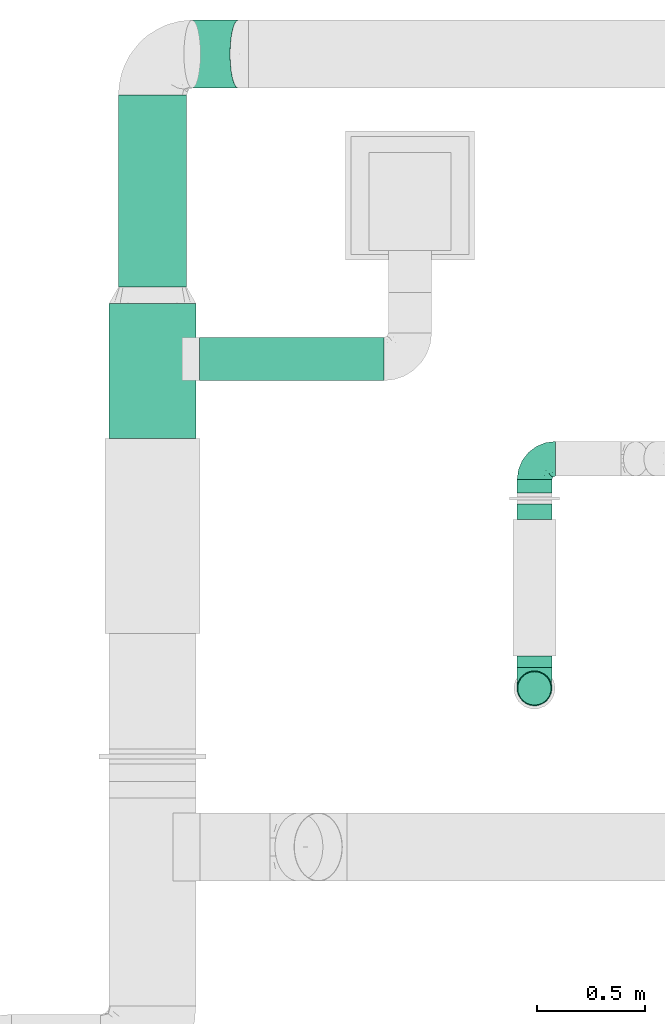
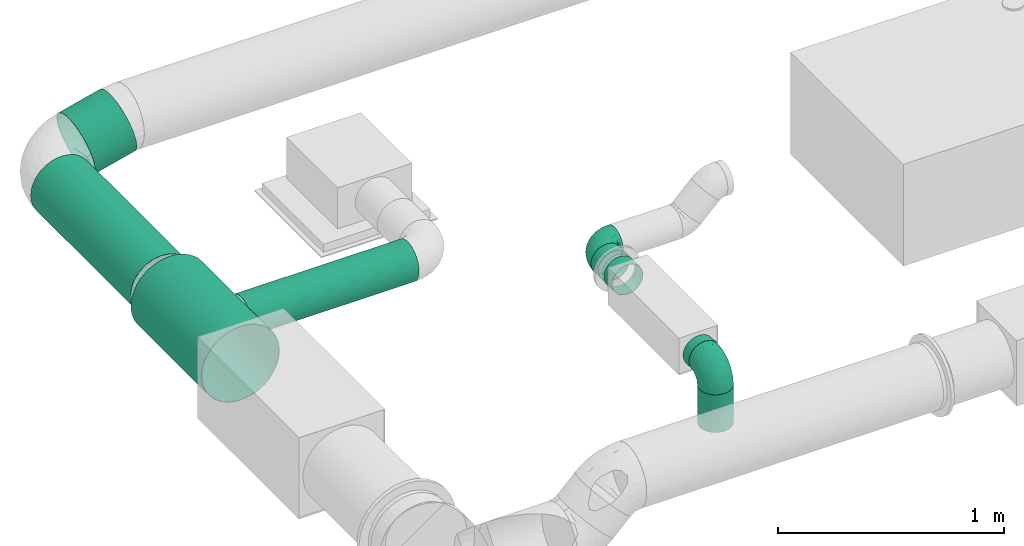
# One storey, part 4 of 16: 8 flow segments, 2 flow fittings.
"""IFC2X3 building model written with IfcOpenShell, lengths in millimetres."""

import ifcopenshell
import ifcopenshell.guid

model = None  # the IFC model being written
_history = None  # IfcOwnerHistory: only IFC2X3 demands one
_inside = {}  # id of a spatial element -> (the spatial element, [elements in it])
_under = {}  # id of a project, library or spatial element -> (it, [spatial elements below it])
_declared = {}  # id of a project -> (the project, [libraries it declares])
_typed = {}  # id of a type object -> (the type object, [elements of that type])
_made_of = {}  # id of a material, layer set ... -> (it, [elements and type objects made of it])


def new_model(schema):
    """Start an empty IFC model of exactly this schema.

    Asked for "IFC4X3", IfcOpenShell would pick the latest addendum, in which some entities
    have other attributes; the version numbers below select the first issue.
    IFC2X3 requires an IfcOwnerHistory on every rooted entity: one is made here for all.
    """
    global model, _history
    if schema == "IFC4X3":
        model = ifcopenshell.file(schema_version=(4, 3, 0, 0))
    else:
        model = ifcopenshell.file(schema=schema)
    _inside.clear()
    _under.clear()
    _declared.clear()
    _typed.clear()
    _made_of.clear()
    _history = None
    if model.schema == "IFC2X3":
        org = make("IfcOrganization", Name="unknown")
        user = make(
            "IfcPersonAndOrganization",
            ThePerson=make("IfcPerson", FamilyName="unknown"),
            TheOrganization=org,
        )
        app = make(
            "IfcApplication",
            ApplicationDeveloper=org,
            Version="unknown",
            ApplicationFullName="unknown",
            ApplicationIdentifier="unknown",
        )
        _history = make(
            "IfcOwnerHistory",
            OwningUser=user,
            OwningApplication=app,
            ChangeAction="ADDED",
            CreationDate=0,
        )
    return model


def make(cls, **values):
    """One entity of the class cls with the attributes given. An attribute that is None is left unset."""
    return model.create_entity(
        cls, **{name: value for name, value in values.items() if value is not None}
    )


def entity(cls, *values):
    """Any entity or typed value of the class cls, its attributes in the order of the schema. None: left unset."""
    e = model.create_entity(cls)
    for i, value in enumerate(values):
        if value is not None:
            e[i] = value
    return e


def rooted(cls, **values):
    """An entity with a GlobalId (a new one), such as an element, a storey or a relation."""
    return make(cls, GlobalId=ifcopenshell.guid.new(), OwnerHistory=_history, **values)


def si_unit(unit_type, name, prefix=None):
    """IfcSIUnit, for example si_unit("LENGTHUNIT", "METRE", prefix="MILLI")."""
    return make("IfcSIUnit", UnitType=unit_type, Prefix=prefix, Name=name)


def converted_unit(unit_type, name, factor, base, dimensions=None, offset=None):
    """IfcConversionBasedUnit, such as the inch: factor (a typed value) times the base unit."""
    return make(
        "IfcConversionBasedUnit"
        if offset is None
        else "IfcConversionBasedUnitWithOffset",
        ConversionOffset=offset,
        Dimensions=None
        if dimensions is None
        else entity("IfcDimensionalExponents", *dimensions),
        UnitType=unit_type,
        Name=name,
        ConversionFactor=make(
            "IfcMeasureWithUnit", ValueComponent=factor, UnitComponent=base
        ),
    )


def derived_unit(unit_type, elements):
    """IfcDerivedUnit: a product of units, each with its exponent."""
    return make(
        "IfcDerivedUnit",
        Elements=[
            make("IfcDerivedUnitElement", Unit=unit, Exponent=power)
            for unit, power in elements
        ],
        UnitType=unit_type,
    )


def assignment(units):
    """IfcUnitAssignment: the units of a project."""
    return None if units is None else make("IfcUnitAssignment", Units=units)


def point(xyz):
    """IfcCartesianPoint."""
    return None if xyz is None else make("IfcCartesianPoint", Coordinates=xyz)


def direction(xyz):
    """IfcDirection."""
    return None if xyz is None else make("IfcDirection", DirectionRatios=xyz)


def frame(location, z_axis=None, x_axis=None):
    """IfcAxis2Placement3D, a coordinate frame: its origin and axes. An axis left out is left unset."""
    return make(
        "IfcAxis2Placement3D",
        Location=point(location),
        Axis=direction(z_axis),
        RefDirection=direction(x_axis),
    )


def frame_2d(location, x_axis=None):
    """IfcAxis2Placement2D, a coordinate frame in the plane: its origin and x axis."""
    return make(
        "IfcAxis2Placement2D", Location=point(location), RefDirection=direction(x_axis)
    )


def origin_with_axes():
    """The frame at (0, 0, 0) with the z axis (0, 0, 1) and the x axis (1, 0, 0) written out."""
    return frame((0.0, 0.0, 0.0), z_axis=(0.0, 0.0, 1.0), x_axis=(1.0, 0.0, 0.0))


def origin_2d_with_axis():
    """The frame at (0, 0) in the plane with the x axis (1, 0) written out."""
    return frame_2d((0.0, 0.0), x_axis=(1.0, 0.0))


def place(relative_to, where):
    """IfcLocalPlacement: puts the frame where relative to a parent placement (None: the world)."""
    return make(
        "IfcLocalPlacement", PlacementRelTo=relative_to, RelativePlacement=where
    )


def context(
    kind, dimensions, precision=None, world=None, true_north=None, identifier=None
):
    """IfcGeometricRepresentationContext, for example the 3D "Model" context."""
    return make(
        "IfcGeometricRepresentationContext",
        ContextIdentifier=identifier,
        ContextType=kind,
        CoordinateSpaceDimension=dimensions,
        Precision=precision,
        WorldCoordinateSystem=world,
        TrueNorth=true_north,
    )


def subcontext(parent, identifier, kind, view, scale=None):
    """IfcGeometricRepresentationSubContext, for example "Body" below "Model"."""
    return make(
        "IfcGeometricRepresentationSubContext",
        ContextIdentifier=identifier,
        ContextType=kind,
        ParentContext=parent,
        TargetScale=scale,
        TargetView=view,
    )


def project(units=None, contexts=None):
    """IfcProject with its units and contexts."""
    return rooted(
        "IfcProject",
        Name="project",
        RepresentationContexts=contexts,
        UnitsInContext=assignment(units),
    )


def spatial(cls, under=None, at=None, **own):
    """A site, building, storey or space (cls), placed at a placement, below another one or the project."""
    s = rooted(cls, ObjectPlacement=at, **own)
    if under is not None:
        _under.setdefault(under.id(), (under, []))[1].append(s)
    return s


def profile(cls, at=None, kind="AREA", **sizes):
    """A parametric profile (cls). Its sizes go by their IFC names, for example OverallWidth=200.0."""
    return make(cls, ProfileType=kind, Position=at, **sizes)


def hollow_circle(**sizes):
    """IfcCircleHollowProfileDef."""
    return profile("IfcCircleHollowProfileDef", **sizes)


def extrude(swept, where, along, depth):
    """IfcExtrudedAreaSolid: the profile swept, set in the frame where, extruded along a direction by depth."""
    return make(
        "IfcExtrudedAreaSolid",
        SweptArea=swept,
        Position=where,
        ExtrudedDirection=direction(along),
        Depth=depth,
    )


def faces_of(points, faces, orient=None, outer=None):
    """IfcFace entities. A face is a list of loops; a loop is a list of indices into points, from 0.

    orient and outer hold one flag for each loop. By default every Orientation is true, the
    first loop of a face is its IfcFaceOuterBound and the others are IfcFaceBound.
    """
    made = []
    for i, loops in enumerate(faces):
        bounds = []
        for j, loop in enumerate(loops):
            is_outer = j == 0 if outer is None else outer[i][j]
            bounds.append(
                make(
                    "IfcFaceOuterBound" if is_outer else "IfcFaceBound",
                    Bound=make("IfcPolyLoop", Polygon=[points[k] for k in loop]),
                    Orientation=True if orient is None else orient[i][j],
                )
            )
        made.append(make("IfcFace", Bounds=bounds))
    return made


def open_shell(faces, orient=None, outer=None):
    """The faces of one IfcOpenShell. surface_model builds it on its shared points."""
    return ("IfcOpenShell", faces, orient, outer)


def surface_model(cls, points, shells):
    """IfcFaceBasedSurfaceModel or IfcShellBasedSurfaceModel (cls): surfaces that need not close."""
    shared = [point(p) for p in points]
    made = [make(c, CfsFaces=faces_of(shared, fs, o, b)) for c, fs, o, b in shells]
    if cls == "IfcFaceBasedSurfaceModel":
        return make(cls, FbsmFaces=made)
    return make(cls, SbsmBoundary=made)


def shape(context_of_items, identifier, shape_type, items):
    """IfcShapeRepresentation: the items that make up one representation, for example the "Body"."""
    return make(
        "IfcShapeRepresentation",
        ContextOfItems=context_of_items,
        RepresentationIdentifier=identifier,
        RepresentationType=shape_type,
        Items=items,
    )


def source(mapping_origin, context_of_items, identifier, shape_type, items):
    """IfcRepresentationMap: a shape defined once, which mapped items show again and again."""
    return make(
        "IfcRepresentationMap",
        MappingOrigin=mapping_origin,
        MappedRepresentation=shape(context_of_items, identifier, shape_type, items),
    )


def transform(
    local_origin,
    x_axis=None,
    y_axis=None,
    z_axis=None,
    scale=None,
    scale2=None,
    scale3=None,
    uniform=True,
):
    """IfcCartesianTransformationOperator3D, or its non-uniform kind. x_axis, y_axis, z_axis: its Axis1, 2, 3."""
    if uniform:
        return make(
            "IfcCartesianTransformationOperator3D",
            Axis1=direction(x_axis),
            Axis2=direction(y_axis),
            LocalOrigin=point(local_origin),
            Scale=scale,
            Axis3=direction(z_axis),
        )
    return make(
        "IfcCartesianTransformationOperator3DnonUniform",
        Axis1=direction(x_axis),
        Axis2=direction(y_axis),
        LocalOrigin=point(local_origin),
        Scale=scale,
        Axis3=direction(z_axis),
        Scale2=scale2,
        Scale3=scale3,
    )


def mapped(mapping_source, mapping_target):
    """IfcMappedItem: shows the shape of a source again, moved by a transform."""
    return make(
        "IfcMappedItem", MappingSource=mapping_source, MappingTarget=mapping_target
    )


def made_of(thing, what):
    """Note that an element or type object is made of a material, layer set ...; save() writes the relation."""
    if what is not None:
        _made_of.setdefault(what.id(), (what, []))[1].append(thing)
    return thing


def type_object(cls, material=None, **own):
    """A type object (cls), such as IfcWallType, which elements share."""
    return made_of(rooted(cls, **own), material)


def element(
    cls,
    number,
    at=None,
    inside=None,
    cuts=None,
    type_object=None,
    material=None,
    context=None,
    identifier="Body",
    shape_type=None,
    held_by="IfcProductDefinitionShape",
    body=None,
    shapes=None,
    **own,
):
    """One element of the class cls, such as IfcWall. Its Tag is "e" and its number.

    at: its placement. inside: the storey or other place that contains it. cuts: it is an
    opening in that element (IfcRelVoidsElement). A single representation is given by context,
    identifier, shape_type and body (its items); several are given by shapes. held_by: the class
    of the entity that holds the representations. save() writes the other relations.
    """
    e = rooted(cls, Tag="e%d" % number, ObjectPlacement=at, **own)
    if body is not None:
        shapes = [shape(context, identifier, shape_type, body)]
    if shapes is not None:
        e.Representation = make(held_by, Representations=shapes)
    if inside is not None:
        _inside.setdefault(inside.id(), (inside, []))[1].append(e)
    if cuts is not None:
        rooted(
            "IfcRelVoidsElement", RelatingBuildingElement=cuts, RelatedOpeningElement=e
        )
    if type_object is not None:
        _typed.setdefault(type_object.id(), (type_object, []))[1].append(e)
    return made_of(e, material)


def aggregate(whole, parts):
    """IfcRelAggregates: a whole, such as a stair, and the parts it consists of."""
    return rooted("IfcRelAggregates", RelatingObject=whole, RelatedObjects=parts)


def save(model, path):
    """Write the relations noted so far, then the file.

    IfcRelAggregates (storeys below a building ...), IfcRelContainedInSpatialStructure (elements
    in a storey), IfcRelDefinesByType, IfcRelAssociatesMaterial and IfcRelDeclares: one each for
    every whole, place, type object, material and project.
    """
    for whole, parts in _under.values():
        aggregate(whole, parts)
    for where, things in _inside.values():
        rooted(
            "IfcRelContainedInSpatialStructure",
            RelatedElements=things,
            RelatingStructure=where,
        )
    for kind, things in _typed.values():
        rooted("IfcRelDefinesByType", RelatedObjects=things, RelatingType=kind)
    for what, things in _made_of.values():
        rooted("IfcRelAssociatesMaterial", RelatedObjects=things, RelatingMaterial=what)
    for by, libraries in _declared.values():
        rooted("IfcRelDeclares", RelatingContext=by, RelatedDefinitions=libraries)
    model.write(path)


model = new_model("IFC2X3")

# Units and contexts
model_context = context("Model", 3, precision=0.01, world=frame((0.0, 4.29681676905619e-09, 0.0)), true_north=direction((4.01073788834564e-13, 1.0)))
plan_context = context("Plan", 3, precision=0.01, world=frame((0.0, 4.29681676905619e-09, 0.0)), true_north=direction((4.01073788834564e-13, 1.0)))
body_context = subcontext(model_context, "Body", "Model", "MODEL_VIEW")
ifc_project = project(units=[converted_unit("PLANEANGLEUNIT", "DEGREE", entity("IfcPositiveLengthMeasure", 0.0174532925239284), si_unit("PLANEANGLEUNIT", "RADIAN"), dimensions=[0, 0, 0, 0, 0, 0, 0]), si_unit("AREAUNIT", "SQUARE_METRE"), si_unit("LENGTHUNIT", "METRE", prefix="MILLI"), si_unit("MASSUNIT", "GRAM", prefix="KILO"), si_unit("POWERUNIT", "WATT"), si_unit("PRESSUREUNIT", "PASCAL"), si_unit("FORCEUNIT", "NEWTON", prefix="KILO"), si_unit("ELECTRICVOLTAGEUNIT", "VOLT"), si_unit("ELECTRICCURRENTUNIT", "AMPERE"), si_unit("THERMODYNAMICTEMPERATUREUNIT", "DEGREE_CELSIUS"), si_unit("TIMEUNIT", "SECOND"), si_unit("VOLUMEUNIT", "CUBIC_METRE"), derived_unit("LINEARVELOCITYUNIT", [(si_unit("LENGTHUNIT", "METRE"), 1), (si_unit("TIMEUNIT", "SECOND"), -1)]), derived_unit("VOLUMETRICFLOWRATEUNIT", [(si_unit("VOLUMEUNIT", "CUBIC_METRE"), 1), (si_unit("TIMEUNIT", "SECOND"), -1)]), derived_unit("THERMALTRANSMITTANCEUNIT", [(si_unit("POWERUNIT", "WATT"), 1), (si_unit("THERMODYNAMICTEMPERATUREUNIT", "KELVIN"), -1), (si_unit("AREAUNIT", "SQUARE_METRE"), -1)]), derived_unit("SOUNDPRESSUREUNIT", [(si_unit("PRESSUREUNIT", "PASCAL"), 1)])], contexts=[model_context, plan_context])

# Site, building, storey
site_placement = place(None, frame((0.0, -4.29681676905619e-09, 0.0), z_axis=(0.0, 0.0, 1.0), x_axis=(1.0, 0.0, 0.0)))
site = spatial("IfcSite", under=ifc_project, at=site_placement, Name="ENGM", CompositionType="ELEMENT")
building_placement = place(site_placement, frame((0.0, 4.29681676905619e-09, 0.0), z_axis=(0.0, 0.0, 1.0), x_axis=(1.0, 0.0, 0.0)))
building = spatial("IfcBuilding", under=site, at=building_placement, Name="TH", CompositionType="ELEMENT")
storey_placement = place(building_placement, frame((0.0, 0.0, 210200.0), z_axis=(0.0, 0.0, 1.0), x_axis=(1.0, 0.0, 0.0)))
storey = spatial("IfcBuildingStorey", under=building, at=storey_placement, Name="Nivå F - 0,7 m", CompositionType="ELEMENT", Elevation=210200.0)

# Flow fittings
duct_fitting_type = type_object("IfcDuctFittingType", Name="magicirc_elbow_short_001", PredefinedType="BEND")
shared_shape_1 = source(origin_with_axes(), body_context, "Body", "SurfaceModel", [
    surface_model("IfcShellBasedSurfaceModel", [(-96.0, 40.0, -69.28203), (-96.0, 20.70552, -77.27406), (-96.0, 0.0, -80.0), (-96.0, -56.56854, -56.56854), (-96.0, 77.27406, -20.70552), (-96.0, 69.28203, -40.0), (-96.0, 56.56854, -56.56854), (-96.0, -80.0, 0.0), (-96.0, 80.0, 0.0), (-96.0, -40.0, -69.28203), (-96.0, -20.70552, -77.27406), (-96.0, -77.27406, -20.70552), (-96.0, -69.28203, -40.0), (-96.0, 69.28203, 40.0), (-96.0, 77.27406, 20.70552), (-96.0, 56.56854, 56.56854), (-96.0, 20.70552, 77.27406), (-96.0, 40.0, 69.28203), (-96.0, -56.56854, 56.56854), (-96.0, -77.27406, 20.70552), (-96.0, -69.28203, 40.0), (-96.0, -40.0, 69.28203), (-96.0, -20.70552, 77.27406), (-96.0, 0.0, 80.0), (0.0, 96.0, -80.0), (-20.70552, 96.0, -77.27406), (-40.0, 96.0, -69.28203), (56.56854, 96.0, -56.56854), (-56.56854, 96.0, -56.56854), (-69.28203, 96.0, -40.0), (-77.27406, 96.0, -20.70552), (-69.28203, 96.0, 40.0), (80.0, 96.0, 0.0), (20.70552, 96.0, -77.27406), (40.0, 96.0, -69.28203), (69.28203, 96.0, -40.0), (77.27406, 96.0, -20.70552), (-80.0, 96.0, 0.0), (-77.27406, 96.0, 20.70552), (-20.70552, 96.0, 77.27406), (-56.56854, 96.0, 56.56854), (-40.0, 96.0, 69.28203), (56.56854, 96.0, 56.56854), (69.28203, 96.0, 40.0), (77.27406, 96.0, 20.70552), (20.70552, 96.0, 77.27406), (40.0, 96.0, 69.28203), (0.0, 96.0, 80.0), (-69.65714, 6.28172, 79.96111), (-55.13809, -64.44506, 39.50294), (-78.49025, -65.24822, 44.92297), (-66.78623, -74.13872, 22.97955), (-79.91237, 22.41513, 77.28168), (-75.12502, 46.35062, 68.0012), (-46.28207, -43.73977, 60.51883), (-62.97607, -34.53622, 70.0448), (-67.13167, -51.75304, 58.52047), (-50.44785, -74.00295, 0.0), (-76.22768, -77.39693, 0.0), (-27.18937, 68.98054, 76.89414), (-6.30632, 70.64214, 79.95132), (-47.75845, -13.62124, 76.38812), (-29.86092, -28.96824, 65.87602), (57.60059, 33.47196, 39.01765), (51.75305, 67.13168, 58.52047), (43.73976, 46.28206, 60.51883), (-74.25916, -14.36459, 78.28299), (10.2254, -42.43563, 0.0), (-6.4993, -53.78904, 15.46457), (-8.0, -56.42047, 0.0), (-84.19087, 70.906, 41.71004), (24.72725, -2.06889, 53.4325), (-0.01802, -25.92843, 53.83674), (10.21505, -32.07542, 38.02021), (-64.56198, 27.52019, 77.2893), (-41.75749, 15.12314, 79.98806), (-96.0, 30.35276, 73.27805), (-24.53367, -60.96696, 23.50038), (-29.22392, -65.21171, 0.0), (-16.40083, 51.31221, 79.86096), (-83.05291, 83.05291, 19.0855), (-84.68629, 84.68629, 0.0), (-82.41856, 62.2587, 53.33399), (-46.30222, 75.90275, 67.84453), (-9.52607, -47.72322, 35.41872), (74.13872, 66.78623, 22.97955), (14.36459, 74.25915, 78.28299), (34.53622, 62.97607, 70.04481), (65.24823, 78.49025, 44.92297), (-12.39357, 25.40172, 78.86526), (-25.63177, 1.26407, 76.9124), (69.81868, 42.56251, 16.79807), (64.44506, 55.13809, 39.50294), (60.96696, 24.53367, 23.50038), (77.39693, 76.22768, 0.0), (74.00295, 50.44785, 0.0), (-66.59951, 66.59951, 58.63708), (-52.47749, 53.06315, 72.00416), (-76.48575, 78.93853, 38.58675), (-62.2587, 82.41856, 53.33399), (28.96823, 29.86091, 65.87602), (13.62124, 47.75844, 76.38812), (-33.73129, 40.02145, 79.0537), (46.13369, 26.24415, 50.15154), (42.43563, -10.2254, 0.0), (56.42047, 8.0, 0.0), (50.0006, 1.26038, 17.57639), (-45.45369, -68.83564, 23.69149), (-33.34939, -57.45722, 39.17207), (23.38464, -27.90661, 24.78871), (35.96834, -11.07246, 30.53911), (-26.24416, -46.1337, 50.15154), (36.67491, -17.59821, 14.56442), (28.45079, -28.45079, 0.0), (65.21171, 29.22392, 0.0), (49.59687, 12.14401, 34.83259), (-47.15333, 29.07461, 78.91273), (-0.98172, 51.31629, 79.49208), (12.49517, 20.08048, 71.22925), (-1.95171, 1.9517, 70.92726), (13.07254, 1.13338, 63.57905), (-1.93327, -13.48238, 63.7412), (-18.92982, -13.00489, 70.66721), (7.85136, -42.49384, 21.32329), (-68.98054, 27.18937, -76.89414), (-22.41513, 79.91236, -77.28168), (-27.52019, 64.56198, -77.2893), (-46.35062, 75.12502, -68.0012), (-74.25916, -14.36459, -78.28299), (-42.56251, -69.81867, -16.79807), (-66.78623, -74.13872, -22.97955), (-70.64214, 6.30632, -79.95132), (-25.40172, 12.39356, -78.86526), (-15.12315, 41.75749, -79.98806), (-1.26408, 25.63177, -76.9124), (-78.93853, 76.48575, -38.58675), (-66.59952, 66.59951, -58.63708), (-82.41856, 62.2587, -53.33399), (60.96695, 24.53367, -23.50038), (53.78904, 6.4993, -15.46457), (-55.13809, -64.44506, -39.50294), (-24.53367, -60.96696, -23.50038), (-29.86092, -28.96824, -65.87602), (-26.24416, -46.1337, -50.15154), (-46.28207, -43.73977, -60.51883), (74.13872, 66.78623, -22.97955), (-40.02145, 33.73129, -79.0537), (-78.49025, -65.24822, -44.92297), (-75.90275, 46.30222, -67.84453), (-70.906, 84.19087, -41.71005), (-67.13167, -51.75305, -58.52047), (-62.97607, -34.53622, -70.0448), (-33.47196, -57.60059, -39.01766), (-51.31221, 16.40082, -79.86096), (-6.28172, 69.65713, -79.96111), (51.75304, 67.13167, -58.52047), (-83.05291, 83.05291, -19.0855), (68.83563, 45.45369, -23.69149), (-62.2587, 82.41856, -53.33399), (34.53622, 62.97606, -70.0448), (-1.26039, -50.0006, -17.5764), (-30.35276, 96.0, -73.27805), (13.62124, 47.75844, -76.38812), (14.36459, 74.25915, -78.28299), (65.24822, 78.49025, -44.92298), (2.06888, -24.72726, -53.4325), (25.92842, 0.01801, -53.83674), (32.07541, -10.21507, -38.02021), (47.72321, 9.52606, -35.41872), (28.96823, 29.86092, -65.87602), (64.44506, 55.13809, -39.50294), (-53.06315, 52.47748, -72.00416), (43.73977, 46.28207, -60.51883), (-47.75844, -13.62124, -76.38812), (57.45722, 33.34938, -39.17207), (27.90661, -23.38464, -24.78871), (11.07245, -35.96834, -30.53911), (46.1337, 26.24416, -50.15154), (17.5982, -36.67492, -14.56442), (-12.14401, -49.59687, -34.8326), (-29.07462, 47.15333, -78.91272), (-51.31629, 0.98172, -79.49208), (-20.08047, -12.49518, -71.22924), (-1.9517, 1.9517, -70.92726), (-1.13337, -13.07254, -63.57905), (13.48238, 1.93328, -63.7412), (13.00488, 18.92982, -70.66721), (42.49384, -7.85136, -21.32329)], [open_shell([[[0, 1, 2]], [[0, 2, 3]], [[4, 5, 6]], [[6, 0, 3]], [[6, 7, 8]], [[9, 3, 10]], [[3, 2, 10]], [[11, 7, 12]], [[3, 12, 7]], [[3, 7, 6]], [[8, 4, 6]], [[13, 14, 8]], [[15, 13, 8]], [[16, 17, 15]], [[8, 16, 15]], [[18, 16, 8]], [[19, 20, 7]], [[7, 20, 18]], [[21, 22, 18]], [[22, 16, 18]], [[16, 22, 23]], [[8, 7, 18]], [[24, 25, 26]], [[27, 24, 26]], [[28, 29, 30]], [[31, 32, 26]], [[28, 31, 26]], [[33, 27, 34]], [[33, 24, 27]], [[35, 32, 36]], [[32, 35, 27]], [[26, 32, 27]], [[28, 30, 37]], [[37, 38, 31]], [[31, 39, 32]], [[40, 41, 39]], [[40, 39, 31]], [[32, 39, 42]], [[32, 43, 44]], [[42, 43, 32]], [[42, 45, 46]], [[42, 39, 45]], [[47, 45, 39]], [[28, 37, 31]], [[16, 23, 48]], [[49, 50, 51]], [[52, 53, 17]], [[54, 55, 56]], [[57, 51, 58]], [[39, 59, 60]], [[61, 55, 62]], [[63, 64, 65]], [[50, 18, 20]], [[56, 55, 21]], [[66, 23, 22]], [[67, 68, 69]], [[70, 14, 13]], [[55, 61, 66]], [[71, 72, 73]], [[74, 48, 75]], [[22, 21, 55]], [[17, 53, 15]], [[17, 76, 52]], [[77, 78, 69]], [[79, 60, 59]], [[8, 80, 81]], [[55, 54, 62]], [[8, 14, 80]], [[82, 70, 13]], [[21, 18, 56]], [[13, 15, 82]], [[41, 83, 59]], [[73, 72, 84]], [[51, 19, 58]], [[51, 20, 19]], [[43, 85, 44]], [[64, 42, 46]], [[86, 87, 45]], [[43, 42, 88]], [[46, 45, 87]], [[89, 75, 90]], [[85, 43, 88]], [[91, 92, 93]], [[87, 64, 46]], [[52, 76, 16]], [[85, 94, 44]], [[41, 40, 83]], [[91, 95, 85]], [[83, 96, 97]], [[38, 98, 31]], [[80, 98, 38]], [[98, 96, 99]], [[100, 87, 101]], [[81, 80, 37]], [[77, 69, 68]], [[41, 59, 39]], [[59, 83, 97]], [[102, 75, 89]], [[100, 103, 65]], [[40, 31, 99]], [[39, 60, 47]], [[104, 105, 106]], [[107, 49, 51]], [[86, 45, 47]], [[77, 107, 78]], [[57, 78, 107]], [[49, 107, 108]], [[73, 109, 110]], [[108, 84, 111]], [[104, 112, 113]], [[103, 100, 71]], [[114, 91, 93]], [[60, 86, 47]], [[114, 93, 105]], [[115, 93, 63]], [[93, 115, 106]], [[66, 48, 23]], [[116, 75, 102]], [[74, 116, 97]], [[82, 53, 96]], [[99, 83, 40]], [[96, 53, 97]], [[79, 59, 102]], [[60, 117, 86]], [[65, 64, 87]], [[88, 64, 92]], [[50, 56, 18]], [[56, 49, 108]], [[48, 61, 75]], [[90, 75, 61]], [[118, 89, 119]], [[79, 117, 60]], [[119, 120, 118]], [[71, 110, 115]], [[119, 121, 120]], [[122, 121, 119]], [[72, 62, 111]], [[90, 122, 119]], [[72, 111, 84]], [[71, 120, 121]], [[74, 97, 53]], [[59, 97, 102]], [[19, 7, 58]], [[94, 85, 95]], [[94, 32, 44]], [[87, 86, 101]], [[55, 66, 22]], [[48, 66, 61]], [[98, 99, 31]], [[83, 99, 96]], [[53, 82, 15]], [[70, 96, 98]], [[102, 89, 79]], [[117, 89, 101]], [[89, 117, 79]], [[86, 117, 101]], [[96, 70, 82]], [[70, 98, 80]], [[80, 14, 70]], [[37, 80, 38]], [[51, 50, 20]], [[56, 50, 49]], [[64, 88, 42]], [[85, 88, 92]], [[52, 48, 74]], [[48, 52, 16]], [[52, 74, 53]], [[107, 51, 57]], [[108, 107, 77]], [[77, 68, 84]], [[108, 111, 54]], [[77, 84, 108]], [[84, 123, 73]], [[109, 73, 123]], [[71, 73, 110]], [[113, 109, 123]], [[93, 106, 105]], [[109, 112, 110]], [[92, 63, 93]], [[112, 106, 110]], [[113, 112, 109]], [[106, 112, 104]], [[71, 115, 103]], [[110, 106, 115]], [[64, 63, 92]], [[103, 115, 63]], [[67, 113, 123]], [[84, 68, 123]], [[68, 67, 123]], [[95, 91, 114]], [[92, 91, 85]], [[100, 65, 87]], [[63, 65, 103]], [[108, 54, 56]], [[62, 54, 111]], [[97, 116, 102]], [[74, 75, 116]], [[122, 61, 62]], [[89, 90, 119]], [[61, 122, 90]], [[121, 62, 72]], [[62, 121, 122]], [[71, 121, 72]], [[71, 100, 120]], [[118, 120, 100]], [[100, 101, 118]], [[89, 118, 101]], [[0, 124, 1]], [[125, 126, 127]], [[10, 2, 128]], [[129, 57, 130]], [[1, 131, 2]], [[132, 133, 134]], [[135, 136, 137]], [[138, 105, 139]], [[5, 137, 6]], [[129, 140, 141]], [[5, 4, 135]], [[142, 143, 144]], [[145, 35, 36]], [[146, 133, 132]], [[130, 12, 147]], [[0, 6, 148]], [[130, 58, 11]], [[149, 30, 29]], [[150, 9, 151]], [[152, 150, 144]], [[3, 9, 150]], [[9, 10, 151]], [[153, 131, 124]], [[3, 147, 12]], [[25, 24, 154]], [[10, 128, 151]], [[12, 130, 11]], [[34, 27, 155]], [[8, 81, 156]], [[138, 157, 114]], [[37, 30, 156]], [[156, 135, 4]], [[29, 158, 149]], [[33, 34, 159]], [[67, 69, 160]], [[28, 158, 29]], [[26, 161, 125]], [[148, 124, 0]], [[126, 154, 133]], [[159, 162, 163]], [[164, 27, 35]], [[28, 26, 127]], [[165, 166, 167]], [[33, 163, 24]], [[168, 167, 166]], [[1, 124, 131]], [[138, 114, 105]], [[104, 139, 105]], [[162, 159, 169]], [[155, 159, 34]], [[170, 164, 145]], [[148, 136, 171]], [[145, 94, 95]], [[159, 172, 169]], [[142, 151, 173]], [[155, 172, 159]], [[124, 148, 171]], [[125, 127, 26]], [[95, 114, 157]], [[156, 4, 8]], [[157, 170, 145]], [[145, 36, 94]], [[170, 157, 174]], [[167, 175, 176]], [[174, 168, 177]], [[67, 178, 113]], [[143, 142, 165]], [[78, 129, 141]], [[36, 32, 94]], [[78, 141, 69]], [[179, 141, 152]], [[141, 179, 160]], [[163, 154, 24]], [[126, 133, 180]], [[126, 180, 171]], [[158, 127, 136]], [[137, 148, 6]], [[136, 127, 171]], [[153, 124, 146]], [[131, 181, 128]], [[144, 150, 151]], [[147, 150, 140]], [[164, 155, 27]], [[155, 170, 174]], [[154, 162, 133]], [[134, 133, 162]], [[182, 132, 183]], [[153, 181, 131]], [[183, 184, 182]], [[165, 176, 179]], [[183, 185, 184]], [[186, 185, 183]], [[166, 169, 177]], [[134, 186, 183]], [[166, 177, 168]], [[165, 184, 185]], [[126, 171, 127]], [[124, 171, 146]], [[58, 130, 57]], [[58, 7, 11]], [[131, 128, 2]], [[151, 128, 173]], [[159, 163, 33]], [[154, 163, 162]], [[135, 137, 5]], [[148, 137, 136]], [[127, 158, 28]], [[149, 136, 135]], [[146, 132, 153]], [[181, 132, 173]], [[132, 181, 153]], [[128, 181, 173]], [[136, 149, 158]], [[149, 135, 156]], [[37, 156, 81]], [[156, 30, 149]], [[145, 164, 35]], [[155, 164, 170]], [[150, 147, 3]], [[130, 147, 140]], [[126, 125, 154]], [[25, 154, 125]], [[161, 25, 125]], [[157, 145, 95]], [[174, 157, 138]], [[138, 139, 168]], [[174, 177, 172]], [[138, 168, 174]], [[168, 187, 167]], [[175, 167, 187]], [[165, 167, 176]], [[113, 175, 187]], [[141, 160, 69]], [[175, 178, 176]], [[140, 152, 141]], [[178, 160, 176]], [[113, 178, 175]], [[160, 178, 67]], [[165, 179, 143]], [[176, 160, 179]], [[150, 152, 140]], [[143, 179, 152]], [[104, 113, 187]], [[168, 139, 187]], [[139, 104, 187]], [[57, 129, 78]], [[140, 129, 130]], [[142, 144, 151]], [[152, 144, 143]], [[174, 172, 155]], [[169, 172, 177]], [[133, 146, 180]], [[171, 180, 146]], [[186, 162, 169]], [[132, 134, 183]], [[162, 186, 134]], [[185, 169, 166]], [[169, 185, 186]], [[165, 185, 166]], [[165, 142, 184]], [[182, 184, 142]], [[142, 173, 182]], [[132, 182, 173]]])]),
])
for number, where, z_axis, x_axis, name in (
    (1, (898319.6162, 484469.03742, 2700.0), (0.0, 0.0, 1.0), (-1.0, 0.0, 0.0), "magicirc_elbow_short_001"),
    (2, (898319.6162, 483409.03742, 2700.0), (1.0, 0.0, 0.0), (0.0, -1.0, 0.0), "magicirc_elbow_short_001"),
):
    element("IfcFlowFitting", number, at=place(storey_placement, frame(where, z_axis=z_axis, x_axis=x_axis)), inside=storey, type_object=duct_fitting_type, Name=name, context=body_context, shape_type="MappedRepresentation", body=[
        mapped(shared_shape_1, transform((0.0, 0.0, 0.0), scale=1.0)),
    ])

# Flow segments
duct_segment_type = type_object("IfcDuctSegmentType", Name="2 - Spiro kanaler, Forsinket stål", PredefinedType="RIGIDSEGMENT")
shared_shape_2 = source(origin_with_axes(), body_context, "Body", "SweptSolid", [
    extrude(hollow_circle(Radius=200.0, WallThickness=2.0, at=origin_2d_with_axis()), frame((0.0, 0.0, 0.0), z_axis=(1.0, 0.0, 0.0), x_axis=(0.0, 1.0, 0.0)), (0.0, 0.0, 1.0), 625.0),
])
flow_segment_1_placement = place(storey_placement, frame((896556.49216, 484561.47296, 2637.79999999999), z_axis=(0.0, 0.0, 1.0), x_axis=(0.0, 1.0, 0.0)))
element("IfcFlowSegment", 3, at=flow_segment_1_placement, inside=storey, type_object=duct_segment_type, Name="2 - Spiro kanaler, Forsinket stål", context=body_context, shape_type="MappedRepresentation", body=[
    mapped(shared_shape_2, transform((0.0, 0.0, 0.0), scale=1.0)),
])
shared_shape_3 = source(origin_with_axes(), body_context, "Body", "SweptSolid", [
    extrude(hollow_circle(Radius=157.5, WallThickness=2.0, at=origin_2d_with_axis()), frame((0.0, 0.0, 0.0), z_axis=(1.0, 0.0, 0.0), x_axis=(0.0, 1.0, 0.0)), (0.0, 0.0, 1.0), 219.8),
])
flow_segment_2_placement = place(storey_placement, frame((896952.90521, 486337.00187, 2737.53062000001), z_axis=(-0.243985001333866, 0.0, 0.969779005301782), x_axis=(-0.969779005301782, 0.0, -0.243985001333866)))
element("IfcFlowSegment", 4, at=flow_segment_2_placement, inside=storey, type_object=duct_segment_type, Name="2 - Spiro kanaler, Forsinket stål", context=body_context, shape_type="MappedRepresentation", body=[
    mapped(shared_shape_3, transform((0.0, 0.0, 0.0), scale=1.0)),
])
shared_shape_4 = source(origin_with_axes(), body_context, "Body", "SweptSolid", [
    extrude(hollow_circle(Radius=80.0, WallThickness=2.0, at=origin_2d_with_axis()), frame((0.0, 0.0, 0.0), z_axis=(1.0, 0.0, 0.0), x_axis=(0.0, 1.0, 0.0)), (0.0, 0.0, 1.0), 52.6),
])
flow_segment_3_placement = place(storey_placement, frame((898319.6162, 483557.5883, 2700.0), z_axis=(0.0, 0.0, 1.0), x_axis=(0.0, -1.0, 0.0)))
element("IfcFlowSegment", 5, at=flow_segment_3_placement, inside=storey, type_object=duct_segment_type, Name="2 - Spiro kanaler, Forsinket stål", context=body_context, shape_type="MappedRepresentation", body=[
    mapped(shared_shape_4, transform((0.0, 0.0, 0.0), scale=1.0)),
])
shared_shape_5 = source(origin_with_axes(), body_context, "Body", "SweptSolid", [
    extrude(hollow_circle(Radius=80.0, WallThickness=2.0, at=origin_2d_with_axis()), frame((0.0, 0.0, 0.0), z_axis=(1.0, 0.0, 0.0), x_axis=(0.0, 1.0, 0.0)), (0.0, 0.0, 1.0), 204.0),
])
flow_segment_4_placement = place(storey_placement, frame((898319.6162, 483409.03742, 2400.0), z_axis=(0.0, -1.0, 0.0), x_axis=(0.0, 0.0, 1.0)))
element("IfcFlowSegment", 6, at=flow_segment_4_placement, inside=storey, type_object=duct_segment_type, Name="2 - Spiro kanaler, Forsinket stål", context=body_context, shape_type="MappedRepresentation", body=[
    mapped(shared_shape_5, transform((0.0, 0.0, 0.0), scale=1.0)),
])
shared_shape_6 = source(origin_with_axes(), body_context, "Body", "SweptSolid", [
    extrude(hollow_circle(Radius=80.0, WallThickness=2.0, at=origin_2d_with_axis()), frame((0.0, 0.0, 0.0), z_axis=(1.0, 0.0, 0.0), x_axis=(0.0, 1.0, 0.0)), (0.0, 0.0, 1.0), 62.9),
])
flow_segment_5_placement = place(storey_placement, frame((898319.6162, 484373.03742, 2700.0), z_axis=(0.0, 0.0, 1.0), x_axis=(0.0, -1.0, 0.0)))
element("IfcFlowSegment", 7, at=flow_segment_5_placement, inside=storey, type_object=duct_segment_type, Name="2 - Spiro kanaler, Forsinket stål", context=body_context, shape_type="MappedRepresentation", body=[
    mapped(shared_shape_6, transform((0.0, 0.0, 0.0), scale=1.0)),
])
shared_shape_7 = source(origin_with_axes(), body_context, "Body", "SweptSolid", [
    extrude(hollow_circle(Radius=80.0, WallThickness=2.0, at=origin_2d_with_axis()), frame((0.0, 0.0, 0.0), z_axis=(1.0, 0.0, 0.0), x_axis=(0.0, 1.0, 0.0)), (0.0, 0.0, 1.0), 72.6),
])
flow_segment_6_placement = place(storey_placement, frame((898319.6162, 484260.13917, 2700.0), z_axis=(0.0, 0.0, 1.0), x_axis=(0.0, -1.0, 0.0)))
element("IfcFlowSegment", 8, at=flow_segment_6_placement, inside=storey, type_object=duct_segment_type, Name="2 - Spiro kanaler, Forsinket stål", context=body_context, shape_type="MappedRepresentation", body=[
    mapped(shared_shape_7, transform((0.0, 0.0, 0.0), scale=1.0)),
])
shared_shape_8 = source(origin_with_axes(), body_context, "Body", "SweptSolid", [
    extrude(hollow_circle(Radius=157.5, WallThickness=2.0, at=origin_2d_with_axis()), frame((0.0, 0.0, 0.0), z_axis=(1.0, 0.0, 0.0), x_axis=(0.0, 1.0, 0.0)), (0.0, 0.0, 1.0), 886.5),
])
flow_segment_7_placement = place(storey_placement, frame((896556.49238, 486148.00187, 2637.80001000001), z_axis=(0.0, 0.0, 1.0), x_axis=(0.0, -1.0, 0.0)))
element("IfcFlowSegment", 9, at=flow_segment_7_placement, inside=storey, type_object=duct_segment_type, Name="2 - Spiro kanaler, Forsinket stål", context=body_context, shape_type="MappedRepresentation", body=[
    mapped(shared_shape_8, transform((0.0, 0.0, 0.0), scale=1.0)),
])
shared_shape_9 = source(origin_with_axes(), body_context, "Body", "SweptSolid", [
    extrude(hollow_circle(Radius=100.0, WallThickness=2.0, at=origin_2d_with_axis()), frame((0.0, 0.0, 0.0), z_axis=(1.0, 0.0, 0.0), x_axis=(0.0, 1.0, 0.0)), (0.0, 0.0, 1.0), 852.3),
])
flow_segment_8_placement = place(storey_placement, frame((896772.49205, 484929.58493, 2598.0), z_axis=(0.0, 0.0, 1.0), x_axis=(1.0, 0.0, 0.0)))
element("IfcFlowSegment", 10, at=flow_segment_8_placement, inside=storey, type_object=duct_segment_type, Name="2 - Spiro kanaler, Forsinket stål", context=body_context, shape_type="MappedRepresentation", body=[
    mapped(shared_shape_9, transform((0.0, 0.0, 0.0), scale=1.0)),
])

save(model, "model.ifc")
